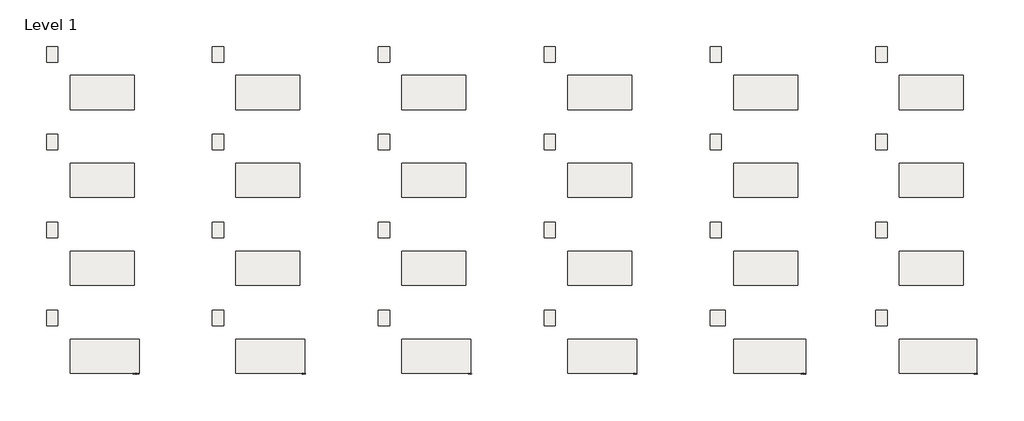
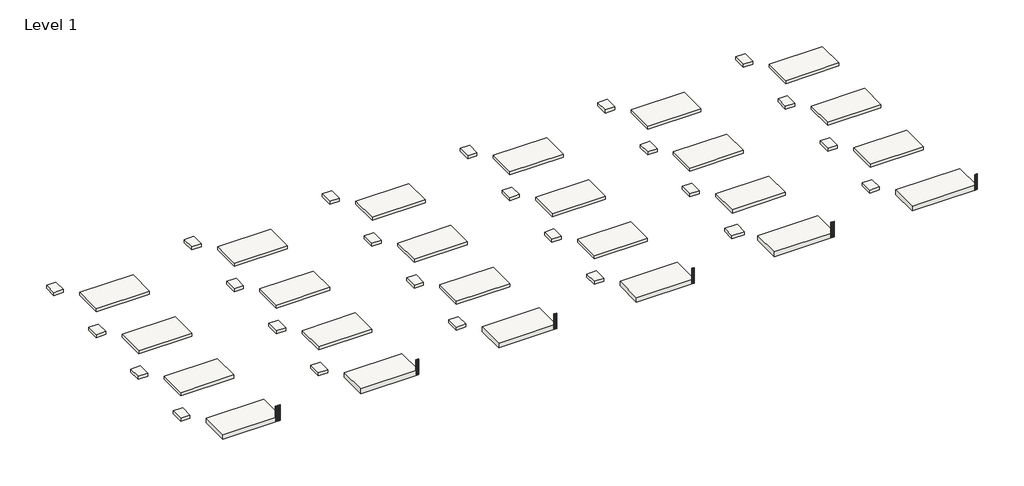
# One storey, incomplete: 48 slabs, 6 railings.
"""IFC4 building model written with IfcOpenShell, lengths in millimetres."""

from ifc_helpers import new_model, si_unit, frame, origin, place, context, project, spatial, polyline, outline, extrude, faceted_brep, transform, mapped, element, save
from components import viva_baluster_corner_metal_picket_or1_d017c051, viva_baluster_corner_metal_picket_or1_6b40696d, viva_baluster_corner_metal_picket_or2_e6a287f3, viva_baluster_corner_metal_picket_or3_0ca7091a, viva_baluster_corner_metal_picket_or4_ef358f53, viva_baluster_corner_metal_picket_or5_cb283085

model = new_model("IFC4")

# Units and contexts
model_context = context("Model", 3, world=origin())
ifc_project = project(units=[si_unit("LENGTHUNIT", "METRE", prefix="MILLI")], contexts=[model_context])

# Site, building, storey
site = spatial("IfcSite", under=ifc_project)
building = spatial("IfcBuilding", under=site)
storey = spatial("IfcBuildingStorey", under=building, Name="Level 1", Elevation=0.0)

# Railings
placement = place(None, origin())
viva_baluster_corner_metal_picket_or1_shape = viva_baluster_corner_metal_picket_or1_d017c051(model_context)
element("IfcRailing", 1, ObjectType="VIVA-Baluster-Corner-Metal_Picket : OR1", at=placement, inside=storey, context=model_context, shape_type="MappedRepresentation", body=[
    mapped(viva_baluster_corner_metal_picket_or1_shape, transform((4248.6400429, -20977.8416701, -155.5524983), x_axis=(0.0, 1.0, 0.0), y_axis=(-1.0, 0.0, 0.0), z_axis=(0.0, 0.0, 1.0))),
])
viva_baluster_corner_metal_picket_or1_2_shape = viva_baluster_corner_metal_picket_or1_6b40696d(model_context)
element("IfcRailing", 2, ObjectType="VIVA-Baluster-Corner-Metal_Picket : OR1", at=placement, inside=storey, context=model_context, shape_type="MappedRepresentation", body=[
    mapped(viva_baluster_corner_metal_picket_or1_2_shape, transform((17145.390109, -20977.8416701, -155.5524983), x_axis=(0.0, 1.0, 0.0), y_axis=(-1.0, 0.0, 0.0), z_axis=(0.0, 0.0, 1.0))),
])
viva_baluster_corner_metal_picket_or2_shape = viva_baluster_corner_metal_picket_or2_e6a287f3(model_context)
element("IfcRailing", 3, ObjectType="VIVA-Baluster-Corner-Metal_Picket : OR2", at=placement, inside=storey, context=model_context, shape_type="MappedRepresentation", body=[
    mapped(viva_baluster_corner_metal_picket_or2_shape, transform((29788.740109, -20977.8416701, -155.5524983), x_axis=(0.0, 1.0, 0.0), y_axis=(-1.0, 0.0, 0.0), z_axis=(0.0, 0.0, 1.0))),
])
viva_baluster_corner_metal_picket_or3_shape = viva_baluster_corner_metal_picket_or3_0ca7091a(model_context)
element("IfcRailing", 4, ObjectType="VIVA-Baluster-Corner-Metal_Picket : OR3", at=placement, inside=storey, context=model_context, shape_type="MappedRepresentation", body=[
    mapped(viva_baluster_corner_metal_picket_or3_shape, transform((42434.765109, -20977.8416701, -155.5524983), x_axis=(0.0, 1.0, 0.0), y_axis=(-1.0, 0.0, 0.0), z_axis=(0.0, 0.0, 1.0))),
])
viva_baluster_corner_metal_picket_or4_shape = viva_baluster_corner_metal_picket_or4_ef358f53(model_context)
element("IfcRailing", 5, ObjectType="VIVA-Baluster-Corner-Metal_Picket : OR4", at=placement, inside=storey, context=model_context, shape_type="MappedRepresentation", body=[
    mapped(viva_baluster_corner_metal_picket_or4_shape, transform((55295.6847258, -20977.8416701, -155.5524983), x_axis=(0.0, 1.0, 0.0), y_axis=(-1.0, 0.0, 0.0), z_axis=(0.0, 0.0, 1.0))),
])
viva_baluster_corner_metal_picket_or5_shape = viva_baluster_corner_metal_picket_or5_cb283085(model_context)
element("IfcRailing", 6, ObjectType="VIVA-Baluster-Corner-Metal_Picket : OR5", at=placement, inside=storey, context=model_context, shape_type="MappedRepresentation", body=[
    mapped(viva_baluster_corner_metal_picket_or5_shape, transform((68476.115109, -20977.8416701, -155.5524983), x_axis=(0.0, 1.0, 0.0), y_axis=(-1.0, 0.0, 0.0), z_axis=(0.0, 0.0, 1.0))),
])

# Slabs
element("IfcSlab", 7, ObjectType="_FLOOR 21", at=placement, inside=storey, context=model_context, shape_type="SweptSolid", body=[
    extrude(outline(polyline([(4020.7958865, -7505.0920212), (-856.0041135, -7505.0920212), (-856.0041135, -4888.8920212), (4020.7958865, -4888.8920212), (4020.7958865, -7505.0920212)])), frame((0.0, 0.0, -292.1), z_axis=(0.0, 0.0, 1.0), x_axis=(1.0, 0.0, 0.0)), (0.0, 0.0, 1.0), 292.1),
])
element("IfcSlab", 8, ObjectType="_FLOOR 21", at=placement, inside=storey, context=model_context, shape_type="SweptSolid", body=[
    extrude(outline(polyline([(-1787.3899939, -3883.4242977), (-2650.9899939, -3883.4242977), (-2650.9899939, -2701.8242977), (-1787.3899939, -2701.8242977), (-1787.3899939, -3883.4242977)])), frame((0.0, 0.0, -292.1), z_axis=(0.0, 0.0, 1.0), x_axis=(1.0, 0.0, 0.0)), (0.0, 0.0, 1.0), 292.1),
])
element("IfcSlab", 9, ObjectType="_FLOOR 21", at=placement, inside=storey, context=model_context, shape_type="SweptSolid", body=[
    extrude(outline(polyline([(-1787.3899939, 2822.1757023), (-2650.9899939, 2822.1757023), (-2650.9899939, 4003.7757023), (-1787.3899939, 4003.7757023), (-1787.3899939, 2822.1757023)])), frame((0.0, 0.0, -292.1), z_axis=(0.0, 0.0, 1.0), x_axis=(1.0, 0.0, 0.0)), (0.0, 0.0, 1.0), 292.1),
])
element("IfcSlab", 10, ObjectType="_FLOOR 21", at=placement, inside=storey, context=model_context, shape_type="SweptSolid", body=[
    extrude(outline(polyline([(4020.7958865, -799.4920212), (-856.0041135, -799.4920212), (-856.0041135, 1816.7079788), (4020.7958865, 1816.7079788), (4020.7958865, -799.4920212)])), frame((0.0, 0.0, -292.1), z_axis=(0.0, 0.0, 1.0), x_axis=(1.0, 0.0, 0.0)), (0.0, 0.0, 1.0), 292.1),
])
element("IfcSlab", 11, ObjectType="_FLOOR 21", at=placement, inside=storey, context=model_context, shape_type="SweptSolid", body=[
    extrude(outline(polyline([(4020.7958865, -14210.6920212), (-856.0041135, -14210.6920212), (-856.0041135, -11594.4920212), (4020.7958865, -11594.4920212), (4020.7958865, -14210.6920212)])), frame((0.0, 0.0, -292.1), z_axis=(0.0, 0.0, 1.0), x_axis=(1.0, 0.0, 0.0)), (0.0, 0.0, 1.0), 292.1),
])
element("IfcSlab", 12, ObjectType="_FLOOR 21", at=placement, inside=storey, context=model_context, shape_type="SweptSolid", body=[
    extrude(outline(polyline([(-1787.3899939, -10589.0242977), (-2650.9899939, -10589.0242977), (-2650.9899939, -9407.4242977), (-1787.3899939, -9407.4242977), (-1787.3899939, -10589.0242977)])), frame((0.0, 0.0, -292.1), z_axis=(0.0, 0.0, 1.0), x_axis=(1.0, 0.0, 0.0)), (0.0, 0.0, 1.0), 292.1),
])
element("IfcSlab", 13, ObjectType="_FLOOR 21", at=placement, inside=storey, context=model_context, shape_type="SweptSolid", body=[
    extrude(outline(polyline([(-1787.3899939, -17294.6242977), (-2650.9899939, -17294.6242977), (-2650.9899939, -16113.0242977), (-1787.3899939, -16113.0242977), (-1787.3899939, -17294.6242977)])), frame((0.0, 0.0, -292.1), z_axis=(0.0, 0.0, 1.0), x_axis=(1.0, 0.0, 0.0)), (0.0, 0.0, 1.0), 292.1),
])
element("IfcSlab", 14, ObjectType="_FLOOR 21", at=placement, inside=storey, context=model_context, shape_type="SweptSolid", body=[
    extrude(outline(polyline([(16669.9958865, -7505.0920212), (11793.1958865, -7505.0920212), (11793.1958865, -4888.8920212), (16669.9958865, -4888.8920212), (16669.9958865, -7505.0920212)])), frame((0.0, 0.0, -292.1), z_axis=(0.0, 0.0, 1.0), x_axis=(1.0, 0.0, 0.0)), (0.0, 0.0, 1.0), 292.1),
])
element("IfcSlab", 15, ObjectType="_FLOOR 21", at=placement, inside=storey, context=model_context, shape_type="SweptSolid", body=[
    extrude(outline(polyline([(10861.8100061, -3883.4242977), (9998.2100061, -3883.4242977), (9998.2100061, -2701.8242977), (10861.8100061, -2701.8242977), (10861.8100061, -3883.4242977)])), frame((0.0, 0.0, -292.1), z_axis=(0.0, 0.0, 1.0), x_axis=(1.0, 0.0, 0.0)), (0.0, 0.0, 1.0), 292.1),
])
element("IfcSlab", 16, ObjectType="_FLOOR 21", at=placement, inside=storey, context=model_context, shape_type="SweptSolid", body=[
    extrude(outline(polyline([(10861.8100061, 2822.1757023), (9998.2100061, 2822.1757023), (9998.2100061, 4003.7757023), (10861.8100061, 4003.7757023), (10861.8100061, 2822.1757023)])), frame((0.0, 0.0, -292.1), z_axis=(0.0, 0.0, 1.0), x_axis=(1.0, 0.0, 0.0)), (0.0, 0.0, 1.0), 292.1),
])
element("IfcSlab", 17, ObjectType="_FLOOR 21", at=placement, inside=storey, context=model_context, shape_type="SweptSolid", body=[
    extrude(outline(polyline([(16669.9958865, -799.4920212), (11793.1958865, -799.4920212), (11793.1958865, 1816.7079788), (16669.9958865, 1816.7079788), (16669.9958865, -799.4920212)])), frame((0.0, 0.0, -292.1), z_axis=(0.0, 0.0, 1.0), x_axis=(1.0, 0.0, 0.0)), (0.0, 0.0, 1.0), 292.1),
])
element("IfcSlab", 18, ObjectType="_FLOOR 21", at=placement, inside=storey, context=model_context, shape_type="SweptSolid", body=[
    extrude(outline(polyline([(16669.9958865, -14210.6920212), (11793.1958865, -14210.6920212), (11793.1958865, -11594.4920212), (16669.9958865, -11594.4920212), (16669.9958865, -14210.6920212)])), frame((0.0, 0.0, -292.1), z_axis=(0.0, 0.0, 1.0), x_axis=(1.0, 0.0, 0.0)), (0.0, 0.0, 1.0), 292.1),
])
element("IfcSlab", 19, ObjectType="_FLOOR 21", at=placement, inside=storey, context=model_context, shape_type="SweptSolid", body=[
    extrude(outline(polyline([(10861.8100061, -10589.0242977), (9998.2100061, -10589.0242977), (9998.2100061, -9407.4242977), (10861.8100061, -9407.4242977), (10861.8100061, -10589.0242977)])), frame((0.0, 0.0, -292.1), z_axis=(0.0, 0.0, 1.0), x_axis=(1.0, 0.0, 0.0)), (0.0, 0.0, 1.0), 292.1),
])
element("IfcSlab", 20, ObjectType="_FLOOR 21", at=placement, inside=storey, context=model_context, shape_type="SweptSolid", body=[
    extrude(outline(polyline([(10861.8100061, -17294.6242977), (9998.2100061, -17294.6242977), (9998.2100061, -16113.0242977), (10861.8100061, -16113.0242977), (10861.8100061, -17294.6242977)])), frame((0.0, 0.0, -292.1), z_axis=(0.0, 0.0, 1.0), x_axis=(1.0, 0.0, 0.0)), (0.0, 0.0, 1.0), 292.1),
])
element("IfcSlab", 21, ObjectType="_FLOOR 21", at=placement, inside=storey, context=model_context, shape_type="SweptSolid", body=[
    extrude(outline(polyline([(29319.1958865, -7505.0920212), (24442.3958865, -7505.0920212), (24442.3958865, -4888.8920212), (29319.1958865, -4888.8920212), (29319.1958865, -7505.0920212)])), frame((0.0, 0.0, -292.1), z_axis=(0.0, 0.0, 1.0), x_axis=(1.0, 0.0, 0.0)), (0.0, 0.0, 1.0), 292.1),
])
element("IfcSlab", 22, ObjectType="_FLOOR 21", at=placement, inside=storey, context=model_context, shape_type="SweptSolid", body=[
    extrude(outline(polyline([(23511.0100061, -3883.4242977), (22647.4100061, -3883.4242977), (22647.4100061, -2701.8242977), (23511.0100061, -2701.8242977), (23511.0100061, -3883.4242977)])), frame((0.0, 0.0, -292.1), z_axis=(0.0, 0.0, 1.0), x_axis=(1.0, 0.0, 0.0)), (0.0, 0.0, 1.0), 292.1),
])
element("IfcSlab", 23, ObjectType="_FLOOR 21", at=placement, inside=storey, context=model_context, shape_type="SweptSolid", body=[
    extrude(outline(polyline([(23511.0100061, 2822.1757023), (22647.4100061, 2822.1757023), (22647.4100061, 4003.7757023), (23511.0100061, 4003.7757023), (23511.0100061, 2822.1757023)])), frame((0.0, 0.0, -292.1), z_axis=(0.0, 0.0, 1.0), x_axis=(1.0, 0.0, 0.0)), (0.0, 0.0, 1.0), 292.1),
])
element("IfcSlab", 24, ObjectType="_FLOOR 21", at=placement, inside=storey, context=model_context, shape_type="SweptSolid", body=[
    extrude(outline(polyline([(29319.1958865, -799.4920212), (24442.3958865, -799.4920212), (24442.3958865, 1816.7079788), (29319.1958865, 1816.7079788), (29319.1958865, -799.4920212)])), frame((0.0, 0.0, -292.1), z_axis=(0.0, 0.0, 1.0), x_axis=(1.0, 0.0, 0.0)), (0.0, 0.0, 1.0), 292.1),
])
element("IfcSlab", 25, ObjectType="_FLOOR 21", at=placement, inside=storey, context=model_context, shape_type="SweptSolid", body=[
    extrude(outline(polyline([(29319.1958865, -14210.6920212), (24442.3958865, -14210.6920212), (24442.3958865, -11594.4920212), (29319.1958865, -11594.4920212), (29319.1958865, -14210.6920212)])), frame((0.0, 0.0, -292.1), z_axis=(0.0, 0.0, 1.0), x_axis=(1.0, 0.0, 0.0)), (0.0, 0.0, 1.0), 292.1),
])
element("IfcSlab", 26, ObjectType="_FLOOR 21", at=placement, inside=storey, context=model_context, shape_type="SweptSolid", body=[
    extrude(outline(polyline([(23511.0100061, -10589.0242977), (22647.4100061, -10589.0242977), (22647.4100061, -9407.4242977), (23511.0100061, -9407.4242977), (23511.0100061, -10589.0242977)])), frame((0.0, 0.0, -292.1), z_axis=(0.0, 0.0, 1.0), x_axis=(1.0, 0.0, 0.0)), (0.0, 0.0, 1.0), 292.1),
])
element("IfcSlab", 27, ObjectType="_FLOOR 21", at=placement, inside=storey, context=model_context, shape_type="SweptSolid", body=[
    extrude(outline(polyline([(23511.0100061, -17294.6242977), (22647.4100061, -17294.6242977), (22647.4100061, -16113.0242977), (23511.0100061, -16113.0242977), (23511.0100061, -17294.6242977)])), frame((0.0, 0.0, -292.1), z_axis=(0.0, 0.0, 1.0), x_axis=(1.0, 0.0, 0.0)), (0.0, 0.0, 1.0), 292.1),
])
element("IfcSlab", 28, ObjectType="_FLOOR 21", at=placement, inside=storey, context=model_context, shape_type="SweptSolid", body=[
    extrude(outline(polyline([(41968.3958865, -7505.0920212), (37091.5958865, -7505.0920212), (37091.5958865, -4888.8920212), (41968.3958865, -4888.8920212), (41968.3958865, -7505.0920212)])), frame((0.0, 0.0, -292.1), z_axis=(0.0, 0.0, 1.0), x_axis=(1.0, 0.0, 0.0)), (0.0, 0.0, 1.0), 292.1),
])
element("IfcSlab", 29, ObjectType="_FLOOR 21", at=placement, inside=storey, context=model_context, shape_type="SweptSolid", body=[
    extrude(outline(polyline([(36160.2100061, -3883.4242977), (35296.6100061, -3883.4242977), (35296.6100061, -2701.8242977), (36160.2100061, -2701.8242977), (36160.2100061, -3883.4242977)])), frame((0.0, 0.0, -292.1), z_axis=(0.0, 0.0, 1.0), x_axis=(1.0, 0.0, 0.0)), (0.0, 0.0, 1.0), 292.1),
])
element("IfcSlab", 30, ObjectType="_FLOOR 21", at=placement, inside=storey, context=model_context, shape_type="SweptSolid", body=[
    extrude(outline(polyline([(36160.2100061, 2822.1757023), (35296.6100061, 2822.1757023), (35296.6100061, 4003.7757023), (36160.2100061, 4003.7757023), (36160.2100061, 2822.1757023)])), frame((0.0, 0.0, -292.1), z_axis=(0.0, 0.0, 1.0), x_axis=(1.0, 0.0, 0.0)), (0.0, 0.0, 1.0), 292.1),
])
element("IfcSlab", 31, ObjectType="_FLOOR 21", at=placement, inside=storey, context=model_context, shape_type="SweptSolid", body=[
    extrude(outline(polyline([(41968.3958865, -799.4920212), (37091.5958865, -799.4920212), (37091.5958865, 1816.7079788), (41968.3958865, 1816.7079788), (41968.3958865, -799.4920212)])), frame((0.0, 0.0, -292.1), z_axis=(0.0, 0.0, 1.0), x_axis=(1.0, 0.0, 0.0)), (0.0, 0.0, 1.0), 292.1),
])
element("IfcSlab", 32, ObjectType="_FLOOR 21", at=placement, inside=storey, context=model_context, shape_type="SweptSolid", body=[
    extrude(outline(polyline([(41968.3958865, -14210.6920212), (37091.5958865, -14210.6920212), (37091.5958865, -11594.4920212), (41968.3958865, -11594.4920212), (41968.3958865, -14210.6920212)])), frame((0.0, 0.0, -292.1), z_axis=(0.0, 0.0, 1.0), x_axis=(1.0, 0.0, 0.0)), (0.0, 0.0, 1.0), 292.1),
])
element("IfcSlab", 33, ObjectType="_FLOOR 21", at=placement, inside=storey, context=model_context, shape_type="SweptSolid", body=[
    extrude(outline(polyline([(36160.2100061, -10589.0242977), (35296.6100061, -10589.0242977), (35296.6100061, -9407.4242977), (36160.2100061, -9407.4242977), (36160.2100061, -10589.0242977)])), frame((0.0, 0.0, -292.1), z_axis=(0.0, 0.0, 1.0), x_axis=(1.0, 0.0, 0.0)), (0.0, 0.0, 1.0), 292.1),
])
element("IfcSlab", 34, ObjectType="_FLOOR 21", at=placement, inside=storey, context=model_context, shape_type="SweptSolid", body=[
    extrude(outline(polyline([(36160.2100061, -17294.6242977), (35296.6100061, -17294.6242977), (35296.6100061, -16113.0242977), (36160.2100061, -16113.0242977), (36160.2100061, -17294.6242977)])), frame((0.0, 0.0, -292.1), z_axis=(0.0, 0.0, 1.0), x_axis=(1.0, 0.0, 0.0)), (0.0, 0.0, 1.0), 292.1),
])
element("IfcSlab", 35, ObjectType="_FLOOR 21", at=placement, inside=storey, context=model_context, shape_type="SweptSolid", body=[
    extrude(outline(polyline([(48809.4100061, 2822.1757023), (47945.8100061, 2822.1757023), (47945.8100061, 4003.7757023), (48809.4100061, 4003.7757023), (48809.4100061, 2822.1757023)])), frame((0.0, 0.0, -292.1), z_axis=(0.0, 0.0, 1.0), x_axis=(1.0, 0.0, 0.0)), (0.0, 0.0, 1.0), 292.1),
])
element("IfcSlab", 36, ObjectType="_FLOOR 21", at=placement, inside=storey, context=model_context, shape_type="SweptSolid", body=[
    extrude(outline(polyline([(54617.5958865, -799.4920212), (49740.7958865, -799.4920212), (49740.7958865, 1816.7079788), (54617.5958865, 1816.7079788), (54617.5958865, -799.4920212)])), frame((0.0, 0.0, -292.1), z_axis=(0.0, 0.0, 1.0), x_axis=(1.0, 0.0, 0.0)), (0.0, 0.0, 1.0), 292.1),
])
element("IfcSlab", 37, ObjectType="_FLOOR 21", at=placement, inside=storey, context=model_context, shape_type="Brep", body=[
    faceted_brep([(61458.6100061, 2822.1757023, -292.1), (60595.0100061, 2822.1757023, -292.1), (60595.0100061, 4003.7757023, -292.1), (61458.6100061, 4003.7757023, -292.1), (61458.6100061, 2822.1757023, 0.0), (61458.6100061, 4003.7757023, 0.0), (60595.0100061, 4003.7757023, 0.0), (60595.0100061, 2822.1757023, 0.0)], [[[0, 1, 2, 3]], [[4, 5, 6, 7]], [[1, 0, 4, 7]], [[2, 1, 7, 6]], [[3, 2, 6, 5]], [[0, 3, 5, 4]]]),
])
element("IfcSlab", 38, ObjectType="_FLOOR 21", at=placement, inside=storey, context=model_context, shape_type="Brep", body=[
    faceted_brep([(67266.7958865, -799.4920212, -292.1), (62389.9958865, -799.4920212, -292.1), (62389.9958865, 1816.7079788, -292.1), (67266.7958865, 1816.7079788, -292.1), (67266.7958865, -799.4920212, 0.0), (67266.7958865, 1816.7079788, 0.0), (62389.9958865, 1816.7079788, 0.0), (62389.9958865, -799.4920212, 0.0)], [[[0, 1, 2, 3]], [[4, 5, 6, 7]], [[1, 0, 4, 7]], [[2, 1, 7, 6]], [[3, 2, 6, 5]], [[0, 3, 5, 4]]]),
])
element("IfcSlab", 39, ObjectType="_FLOOR 21", at=placement, inside=storey, context=model_context, shape_type="Brep", body=[
    faceted_brep([(48809.4100061, -3883.4242977, -292.1), (47945.8100061, -3883.4242977, -292.1), (47945.8100061, -2701.8242977, -292.1), (48809.4100061, -2701.8242977, -292.1), (48809.4100061, -3883.4242977, 0.0), (48809.4100061, -2701.8242977, 0.0), (47945.8100061, -2701.8242977, 0.0), (47945.8100061, -3883.4242977, 0.0)], [[[0, 1, 2, 3]], [[4, 5, 6, 7]], [[1, 0, 4, 7]], [[2, 1, 7, 6]], [[3, 2, 6, 5]], [[0, 3, 5, 4]]]),
])
element("IfcSlab", 40, ObjectType="_FLOOR 21", at=placement, inside=storey, context=model_context, shape_type="Brep", body=[
    faceted_brep([(54617.5958865, -7505.0920212, -292.1), (49740.7958865, -7505.0920212, -292.1), (49740.7958865, -4888.8920212, -292.1), (54617.5958865, -4888.8920212, -292.1), (54617.5958865, -7505.0920212, 0.0), (54617.5958865, -4888.8920212, 0.0), (49740.7958865, -4888.8920212, 0.0), (49740.7958865, -7505.0920212, 0.0)], [[[0, 1, 2, 3]], [[4, 5, 6, 7]], [[1, 0, 4, 7]], [[2, 1, 7, 6]], [[3, 2, 6, 5]], [[0, 3, 5, 4]]]),
])
element("IfcSlab", 41, ObjectType="_FLOOR 21", at=placement, inside=storey, context=model_context, shape_type="Brep", body=[
    faceted_brep([(61458.6100061, -3883.4242977, -292.1), (60595.0100061, -3883.4242977, -292.1), (60595.0100061, -2701.8242977, -292.1), (61458.6100061, -2701.8242977, -292.1), (61458.6100061, -3883.4242977, 0.0), (61458.6100061, -2701.8242977, 0.0), (60595.0100061, -2701.8242977, 0.0), (60595.0100061, -3883.4242977, 0.0)], [[[0, 1, 2, 3]], [[4, 5, 6, 7]], [[1, 0, 4, 7]], [[2, 1, 7, 6]], [[3, 2, 6, 5]], [[0, 3, 5, 4]]]),
])
element("IfcSlab", 42, ObjectType="_FLOOR 21", at=placement, inside=storey, context=model_context, shape_type="Brep", body=[
    faceted_brep([(67266.7958865, -7505.0920212, -292.1), (62389.9958865, -7505.0920212, -292.1), (62389.9958865, -4888.8920212, -292.1), (67266.7958865, -4888.8920212, -292.1), (67266.7958865, -7505.0920212, 0.0), (67266.7958865, -4888.8920212, 0.0), (62389.9958865, -4888.8920212, 0.0), (62389.9958865, -7505.0920212, 0.0)], [[[0, 1, 2, 3]], [[4, 5, 6, 7]], [[1, 0, 4, 7]], [[2, 1, 7, 6]], [[3, 2, 6, 5]], [[0, 3, 5, 4]]]),
])
element("IfcSlab", 43, ObjectType="_FLOOR 21", at=placement, inside=storey, context=model_context, shape_type="Brep", body=[
    faceted_brep([(48809.4100061, -10589.0242977, -292.1), (47945.8100061, -10589.0242977, -292.1), (47945.8100061, -9407.4242977, -292.1), (48809.4100061, -9407.4242977, -292.1), (48809.4100061, -10589.0242977, 0.0), (48809.4100061, -9407.4242977, 0.0), (47945.8100061, -9407.4242977, 0.0), (47945.8100061, -10589.0242977, 0.0)], [[[0, 1, 2, 3]], [[4, 5, 6, 7]], [[1, 0, 4, 7]], [[2, 1, 7, 6]], [[3, 2, 6, 5]], [[0, 3, 5, 4]]]),
])
element("IfcSlab", 44, ObjectType="_FLOOR 21", at=placement, inside=storey, context=model_context, shape_type="Brep", body=[
    faceted_brep([(54617.5958865, -14210.6920212, -292.1), (49740.7958865, -14210.6920212, -292.1), (49740.7958865, -11594.4920212, -292.1), (54617.5958865, -11594.4920212, -292.1), (54617.5958865, -14210.6920212, 0.0), (54617.5958865, -11594.4920212, 0.0), (49740.7958865, -11594.4920212, 0.0), (49740.7958865, -14210.6920212, 0.0)], [[[0, 1, 2, 3]], [[4, 5, 6, 7]], [[1, 0, 4, 7]], [[2, 1, 7, 6]], [[3, 2, 6, 5]], [[0, 3, 5, 4]]]),
])
element("IfcSlab", 45, ObjectType="_FLOOR 21", at=placement, inside=storey, context=model_context, shape_type="Brep", body=[
    faceted_brep([(61458.6100061, -10589.0242977, -292.1), (60595.0100061, -10589.0242977, -292.1), (60595.0100061, -9407.4242977, -292.1), (61458.6100061, -9407.4242977, -292.1), (61458.6100061, -10589.0242977, 0.0), (61458.6100061, -9407.4242977, 0.0), (60595.0100061, -9407.4242977, 0.0), (60595.0100061, -10589.0242977, 0.0)], [[[0, 1, 2, 3]], [[4, 5, 6, 7]], [[1, 0, 4, 7]], [[2, 1, 7, 6]], [[3, 2, 6, 5]], [[0, 3, 5, 4]]]),
])
element("IfcSlab", 46, ObjectType="_FLOOR 21", at=placement, inside=storey, context=model_context, shape_type="Brep", body=[
    faceted_brep([(67266.7958865, -14210.6920212, -292.1), (62389.9958865, -14210.6920212, -292.1), (62389.9958865, -11594.4920212, -292.1), (67266.7958865, -11594.4920212, -292.1), (67266.7958865, -14210.6920212, 0.0), (67266.7958865, -11594.4920212, 0.0), (62389.9958865, -11594.4920212, 0.0), (62389.9958865, -14210.6920212, 0.0)], [[[0, 1, 2, 3]], [[4, 5, 6, 7]], [[1, 0, 4, 7]], [[2, 1, 7, 6]], [[3, 2, 6, 5]], [[0, 3, 5, 4]]]),
])
element("IfcSlab", 47, ObjectType="_FLOOR 21", at=placement, inside=storey, context=model_context, shape_type="Brep", body=[
    faceted_brep([(49088.8100061, -17294.6242977, -292.1), (47945.8100061, -17294.6242977, -292.1), (47945.8100061, -16113.0242977, -292.1), (49088.8100061, -16113.0242977, -292.1), (49088.8100061, -17294.6242977, 0.0), (49088.8100061, -16113.0242977, 0.0), (47945.8100061, -16113.0242977, 0.0), (47945.8100061, -17294.6242977, 0.0)], [[[0, 1, 2, 3]], [[4, 5, 6, 7]], [[1, 0, 4, 7]], [[2, 1, 7, 6]], [[3, 2, 6, 5]], [[0, 3, 5, 4]]]),
])
element("IfcSlab", 48, ObjectType="_FLOOR 21", at=placement, inside=storey, context=model_context, shape_type="Brep", body=[
    faceted_brep([(61458.6100061, -17294.6242977, -292.1), (60595.0100061, -17294.6242977, -292.1), (60595.0100061, -16113.0242977, -292.1), (61458.6100061, -16113.0242977, -292.1), (61458.6100061, -17294.6242977, 0.0), (61458.6100061, -16113.0242977, 0.0), (60595.0100061, -16113.0242977, 0.0), (60595.0100061, -17294.6242977, 0.0)], [[[0, 1, 2, 3]], [[4, 5, 6, 7]], [[1, 0, 4, 7]], [[2, 1, 7, 6]], [[3, 2, 6, 5]], [[0, 3, 5, 4]]]),
])
element("IfcSlab", 49, ObjectType="_FLOOR 40", at=placement, inside=storey, context=model_context, shape_type="SweptSolid", body=[
    extrude(outline(polyline([(4401.7958865, -20916.2920212), (-856.0041135, -20916.2920212), (-856.0041135, -18300.0920212), (4401.7958865, -18300.0920212), (4401.7958865, -20916.2920212)])), frame((0.0, 0.0, -457.2), z_axis=(0.0, 0.0, 1.0), x_axis=(1.0, 0.0, 0.0)), (0.0, 0.0, 1.0), 457.2),
])
element("IfcSlab", 50, ObjectType="_FLOOR 40", at=placement, inside=storey, context=model_context, shape_type="SweptSolid", body=[
    extrude(outline(polyline([(17050.9958865, -20916.2920212), (11793.1958865, -20916.2920212), (11793.1958865, -18300.0920212), (17050.9958865, -18300.0920212), (17050.9958865, -20916.2920212)])), frame((0.0, 0.0, -457.2), z_axis=(0.0, 0.0, 1.0), x_axis=(1.0, 0.0, 0.0)), (0.0, 0.0, 1.0), 457.2),
])
element("IfcSlab", 51, ObjectType="_FLOOR 40", at=placement, inside=storey, context=model_context, shape_type="SweptSolid", body=[
    extrude(outline(polyline([(29700.1958865, -20916.2920212), (24442.3958865, -20916.2920212), (24442.3958865, -18300.0920212), (29700.1958865, -18300.0920212), (29700.1958865, -20916.2920212)])), frame((0.0, 0.0, -457.2), z_axis=(0.0, 0.0, 1.0), x_axis=(1.0, 0.0, 0.0)), (0.0, 0.0, 1.0), 457.2),
])
element("IfcSlab", 52, ObjectType="_FLOOR 40", at=placement, inside=storey, context=model_context, shape_type="SweptSolid", body=[
    extrude(outline(polyline([(42349.3958865, -20916.2920212), (37091.5958865, -20916.2920212), (37091.5958865, -18300.0920212), (42349.3958865, -18300.0920212), (42349.3958865, -20916.2920212)])), frame((0.0, 0.0, -457.2), z_axis=(0.0, 0.0, 1.0), x_axis=(1.0, 0.0, 0.0)), (0.0, 0.0, 1.0), 457.2),
])
element("IfcSlab", 53, ObjectType="_FLOOR 40", at=placement, inside=storey, context=model_context, shape_type="SweptSolid", body=[
    extrude(outline(polyline([(55252.5958865, -20916.2920212), (49740.7958865, -20916.2920212), (49740.7958865, -18300.0920212), (55252.5958865, -18300.0920212), (55252.5958865, -20916.2920212)])), frame((0.0, 0.0, -457.2), z_axis=(0.0, 0.0, 1.0), x_axis=(1.0, 0.0, 0.0)), (0.0, 0.0, 1.0), 457.2),
])
element("IfcSlab", 54, ObjectType="_FLOOR 40", at=placement, inside=storey, context=model_context, shape_type="SweptSolid", body=[
    extrude(outline(polyline([(68282.7958865, -20916.2920212), (62389.9958865, -20916.2920212), (62389.9958865, -18300.0920212), (68282.7958865, -18300.0920212), (68282.7958865, -20916.2920212)])), frame((0.0, 0.0, -457.2), z_axis=(0.0, 0.0, 1.0), x_axis=(1.0, 0.0, 0.0)), (0.0, 0.0, 1.0), 457.2),
])

save(model, "model.ifc")
